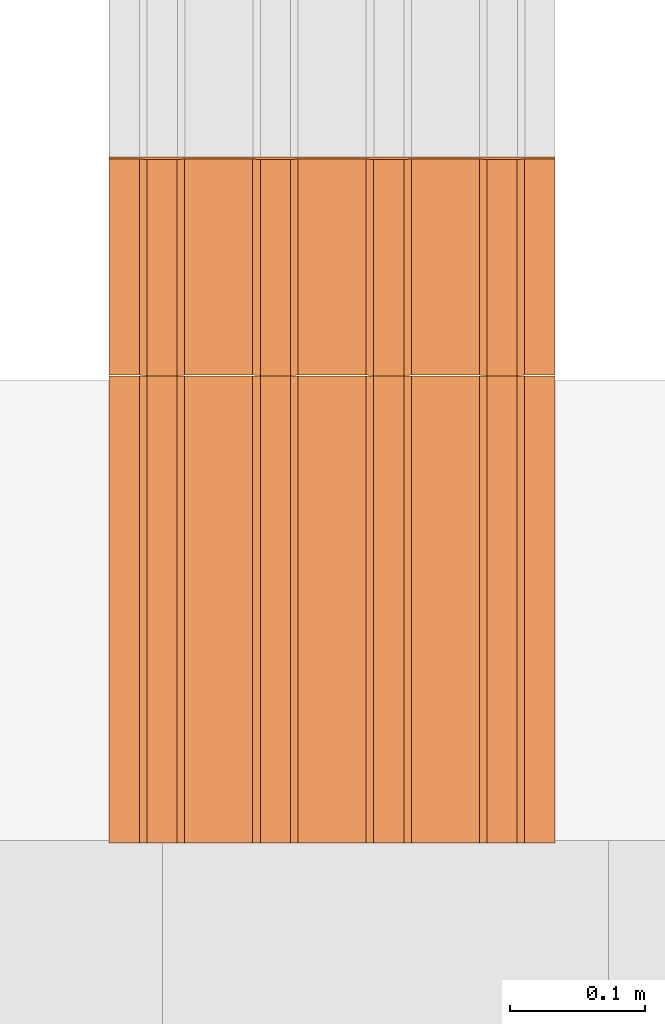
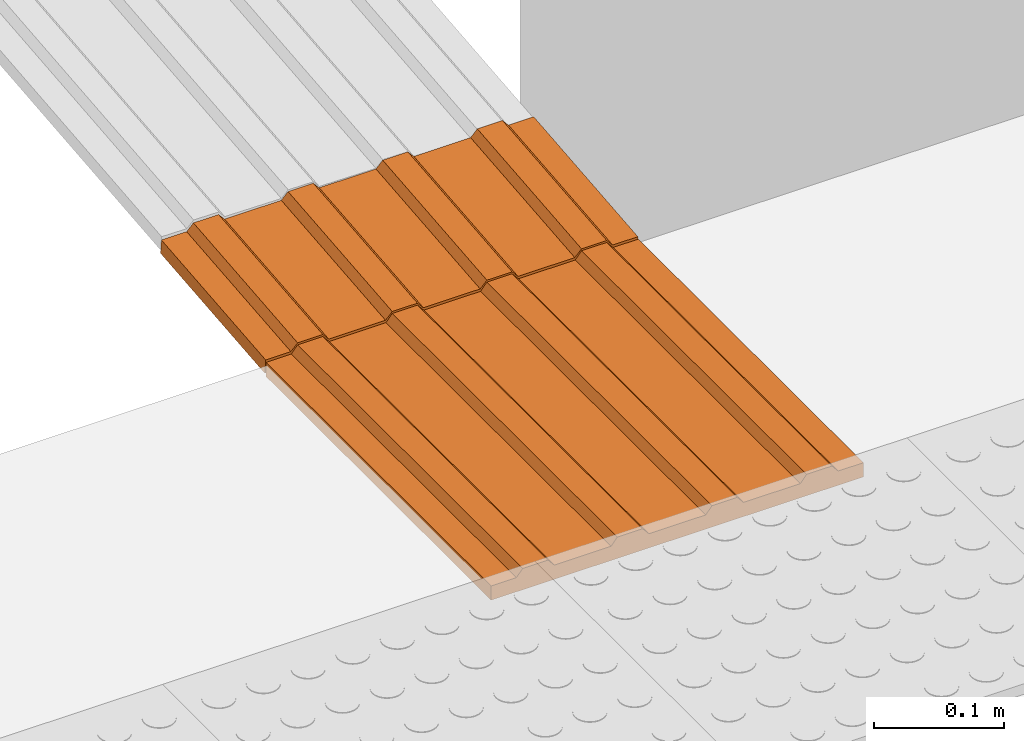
# One storey, part 231 of 237: 2 proxies.
"""IFC2X3 building model written with IfcOpenShell, lengths in millimetres."""

from ifc_helpers import new_model, entity, si_unit, converted_unit, derived_unit, money_unit, direction, frame, origin_with_axes, place, context, subcontext, project, spatial, open_shell, surface_model, type_object, element, save


model = new_model("IFC2X3")

# Units and contexts
model_context = context("Model", 3, precision=0.01, world=origin_with_axes(), true_north=direction((0.0, 1.0)))
body_context = subcontext(model_context, "Body", "Model", "MODEL_VIEW")
ifc_project = project(units=[si_unit("LENGTHUNIT", "METRE", prefix="MILLI"), si_unit("AREAUNIT", "SQUARE_METRE"), si_unit("VOLUMEUNIT", "CUBIC_METRE"), converted_unit("PLANEANGLEUNIT", "DEGREE", entity("IfcPlaneAngleMeasure", 0.0174532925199), si_unit("PLANEANGLEUNIT", "RADIAN"), dimensions=[0, 0, 0, 0, 0, 0, 0]), money_unit("USD"), converted_unit("TIMEUNIT", "Year", entity("IfcTimeMeasure", 31556926.0), si_unit("TIMEUNIT", "SECOND"), dimensions=[0, 0, 1, 0, 0, 0, 0]), si_unit("MASSUNIT", "GRAM", prefix="KILO"), si_unit("THERMODYNAMICTEMPERATUREUNIT", "DEGREE_CELSIUS"), si_unit("LUMINOUSINTENSITYUNIT", "LUMEN"), si_unit("ENERGYUNIT", "JOULE", prefix="MEGA"), derived_unit("THERMALCONDUCTANCEUNIT", [(si_unit("POWERUNIT", "WATT"), 1), (si_unit("LENGTHUNIT", "METRE"), -1), (si_unit("THERMODYNAMICTEMPERATUREUNIT", "KELVIN"), -1)]), derived_unit("SPECIFICHEATCAPACITYUNIT", [(si_unit("ENERGYUNIT", "JOULE"), 1), (si_unit("MASSUNIT", "GRAM", prefix="KILO"), -1), (si_unit("THERMODYNAMICTEMPERATUREUNIT", "KELVIN"), -1)]), derived_unit("MASSDENSITYUNIT", [(si_unit("MASSUNIT", "GRAM", prefix="KILO"), 1), (si_unit("VOLUMEUNIT", "CUBIC_METRE"), -1)])], contexts=[model_context])

# Site, building, storey
site_placement = place(None, origin_with_axes())
site = spatial("IfcSite", under=ifc_project, at=site_placement, Name="Local", CompositionType="ELEMENT")
building_placement = place(site_placement, origin_with_axes())
building = spatial("IfcBuilding", under=site, at=building_placement, Name="Construção", CompositionType="ELEMENT")
storey_placement = place(building_placement, origin_with_axes())
storey = spatial("IfcBuildingStorey", under=building, at=storey_placement, Name="Pavimento Térreo", CompositionType="ELEMENT", Elevation=0.0)

# Proxies
building_element_proxy_type = type_object("IfcBuildingElementProxyType", Name="Piso Direcional 27", PredefinedType="NOTDEFINED")
proxy_1_placement = place(storey_placement, frame((123836.79662, 35120.8357906, -7273.00687125), z_axis=(0.0, 0.0, 1.0), x_axis=(0.0, -1.0, 0.0)))
element("IfcBuildingElementProxy", 1, at=proxy_1_placement, inside=storey, type_object=building_element_proxy_type, Name="Objeto-0055", context=body_context, shape_type="SurfaceModel", body=[
    surface_model("IfcShellBasedSurfaceModel", [(0.0, -47.258225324, 4.02852049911), (345.625361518, -47.258225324, 4.02852049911), (345.625361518, -41.665004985, 10.6951871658), (0.0, -41.665004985, 10.6951871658)], [open_shell([[[0, 1, 2, 3]]])]),
    surface_model("IfcShellBasedSurfaceModel", [(345.625361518, -153.529411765, -9.30481283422), (345.625361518, 176.470588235, -9.30481283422), (345.625361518, 176.470588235, 4.02852049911), (345.625361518, 154.097706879, 4.02852049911), (345.625361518, 148.50448654, 10.6951871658), (345.625361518, 126.131605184, 10.6951871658), (345.625361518, 120.538384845, 4.02852049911), (345.625361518, 70.1994017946, 4.02852049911), (345.625361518, 64.6061814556, 10.6951871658), (345.625361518, 42.2333000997, 10.6951871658), (345.625361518, 36.6400797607, 4.02852049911), (345.625361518, -13.6989032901, 4.02852049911), (345.625361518, -19.2921236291, 10.6951871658), (345.625361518, -41.665004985, 10.6951871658), (345.625361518, -47.258225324, 4.02852049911), (345.625361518, -97.5972083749, 4.02852049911), (345.625361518, -103.190428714, 10.6951871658), (345.625361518, -125.56331007, 10.6951871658), (345.625361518, -131.156530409, 4.02852049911), (345.625361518, -153.529411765, 4.02852049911)], [open_shell([[[0, 1, 2, 3, 4, 5, 6, 7, 8, 9, 10, 11, 12, 13, 14, 15, 16, 17, 18, 19]]])]),
    surface_model("IfcShellBasedSurfaceModel", [(0.0, -19.2921236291, 10.6951871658), (345.625361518, -19.2921236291, 10.6951871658), (345.625361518, -13.6989032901, 4.02852049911), (0.0, -13.6989032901, 4.02852049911)], [open_shell([[[0, 1, 2, 3]]])]),
    surface_model("IfcShellBasedSurfaceModel", [(0.0, -103.190428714, 10.6951871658), (345.625361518, -103.190428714, 10.6951871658), (345.625361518, -97.5972083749, 4.02852049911), (0.0, -97.5972083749, 4.02852049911)], [open_shell([[[0, 1, 2, 3]]])]),
    surface_model("IfcShellBasedSurfaceModel", [(0.0, 64.6061814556, 10.6951871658), (345.625361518, 64.6061814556, 10.6951871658), (345.625361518, 70.1994017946, 4.02852049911), (0.0, 70.1994017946, 4.02852049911)], [open_shell([[[0, 1, 2, 3]]])]),
    surface_model("IfcShellBasedSurfaceModel", [(0.0, 36.6400797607, 4.02852049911), (345.625361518, 36.6400797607, 4.02852049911), (345.625361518, 42.2333000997, 10.6951871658), (0.0, 42.2333000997, 10.6951871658)], [open_shell([[[0, 1, 2, 3]]])]),
    surface_model("IfcShellBasedSurfaceModel", [(0.0, -131.156530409, 4.02852049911), (345.625361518, -131.156530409, 4.02852049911), (345.625361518, -125.56331007, 10.6951871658), (0.0, -125.56331007, 10.6951871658)], [open_shell([[[0, 1, 2, 3]]])]),
    surface_model("IfcShellBasedSurfaceModel", [(0.0, 176.470588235, 4.02852049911), (0.0, 154.097706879, 4.02852049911), (345.625361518, 154.097706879, 4.02852049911), (345.625361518, 176.470588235, 4.02852049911)], [open_shell([[[0, 1, 2, 3]]])]),
    surface_model("IfcShellBasedSurfaceModel", [(0.0, 120.538384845, 4.02852049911), (345.625361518, 120.538384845, 4.02852049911), (345.625361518, 126.131605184, 10.6951871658), (0.0, 126.131605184, 10.6951871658)], [open_shell([[[0, 1, 2, 3]]])]),
    surface_model("IfcShellBasedSurfaceModel", [(0.0, 148.50448654, 10.6951871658), (345.625361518, 148.50448654, 10.6951871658), (345.625361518, 154.097706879, 4.02852049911), (0.0, 154.097706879, 4.02852049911)], [open_shell([[[0, 1, 2, 3]]])]),
    surface_model("IfcShellBasedSurfaceModel", [(0.0, 36.6400797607, 4.02852049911), (0.0, -13.6989032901, 4.02852049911), (345.625361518, -13.6989032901, 4.02852049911), (345.625361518, 36.6400797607, 4.02852049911)], [open_shell([[[0, 1, 2, 3]]])]),
    surface_model("IfcShellBasedSurfaceModel", [(0.0, 120.538384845, 4.02852049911), (0.0, 70.1994017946, 4.02852049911), (345.625361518, 70.1994017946, 4.02852049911), (345.625361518, 120.538384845, 4.02852049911)], [open_shell([[[0, 1, 2, 3]]])]),
    surface_model("IfcShellBasedSurfaceModel", [(0.0, 148.50448654, 10.6951871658), (0.0, 126.131605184, 10.6951871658), (345.625361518, 126.131605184, 10.6951871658), (345.625361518, 148.50448654, 10.6951871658)], [open_shell([[[0, 1, 2, 3]]])]),
    surface_model("IfcShellBasedSurfaceModel", [(0.0, 120.538384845, 4.02852049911), (0.0, 126.131605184, 10.6951871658), (0.0, 148.50448654, 10.6951871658), (0.0, 154.097706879, 4.02852049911), (0.0, 176.470588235, 4.02852049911), (0.0, 176.470588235, -9.30481283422), (0.0, -153.529411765, -9.30481283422), (0.0, -153.529411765, 4.02852049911), (0.0, -131.156530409, 4.02852049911), (0.0, -125.56331007, 10.6951871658), (0.0, -103.190428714, 10.6951871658), (0.0, -97.5972083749, 4.02852049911), (0.0, -47.258225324, 4.02852049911), (0.0, -41.665004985, 10.6951871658), (0.0, -19.2921236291, 10.6951871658), (0.0, -13.6989032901, 4.02852049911), (0.0, 36.6400797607, 4.02852049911), (0.0, 42.2333000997, 10.6951871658), (0.0, 64.6061814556, 10.6951871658), (0.0, 70.1994017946, 4.02852049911)], [open_shell([[[0, 1, 2, 3, 4, 5, 6, 7, 8, 9, 10, 11, 12, 13, 14, 15, 16, 17, 18, 19]]])]),
    surface_model("IfcShellBasedSurfaceModel", [(345.625361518, -41.665004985, 10.6951871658), (345.625361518, -19.2921236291, 10.6951871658), (0.0, -19.2921236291, 10.6951871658), (0.0, -41.665004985, 10.6951871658)], [open_shell([[[0, 1, 2, 3]]])]),
    surface_model("IfcShellBasedSurfaceModel", [(0.0, -47.258225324, 4.02852049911), (0.0, -97.5972083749, 4.02852049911), (345.625361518, -97.5972083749, 4.02852049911), (345.625361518, -47.258225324, 4.02852049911)], [open_shell([[[0, 1, 2, 3]]])]),
    surface_model("IfcShellBasedSurfaceModel", [(345.625361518, 42.2333000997, 10.6951871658), (345.625361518, 64.6061814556, 10.6951871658), (0.0, 64.6061814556, 10.6951871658), (0.0, 42.2333000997, 10.6951871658)], [open_shell([[[0, 1, 2, 3]]])]),
    surface_model("IfcShellBasedSurfaceModel", [(345.625361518, -125.56331007, 10.6951871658), (345.625361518, -103.190428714, 10.6951871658), (0.0, -103.190428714, 10.6951871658), (0.0, -125.56331007, 10.6951871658)], [open_shell([[[0, 1, 2, 3]]])]),
    surface_model("IfcShellBasedSurfaceModel", [(345.625361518, 176.470588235, -9.30481283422), (0.0, 176.470588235, -9.30481283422), (0.0, 176.470588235, 4.02852049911), (345.625361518, 176.470588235, 4.02852049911)], [open_shell([[[0, 1, 2, 3]]])]),
    surface_model("IfcShellBasedSurfaceModel", [(345.625361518, -153.529411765, -9.30481283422), (0.0, -153.529411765, -9.30481283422), (0.0, 176.470588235, -9.30481283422), (345.625361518, 176.470588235, -9.30481283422)], [open_shell([[[0, 1, 2, 3]]])]),
    surface_model("IfcShellBasedSurfaceModel", [(345.625361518, -153.529411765, 4.02852049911), (345.625361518, -131.156530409, 4.02852049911), (0.0, -131.156530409, 4.02852049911), (0.0, -153.529411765, 4.02852049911)], [open_shell([[[0, 1, 2, 3]]])]),
    surface_model("IfcShellBasedSurfaceModel", [(0.0, -153.529411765, -9.30481283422), (345.625361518, -153.529411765, -9.30481283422), (345.625361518, -153.529411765, 4.02852049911), (0.0, -153.529411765, 4.02852049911)], [open_shell([[[0, 1, 2, 3]]])]),
])
proxy_2_placement = place(storey_placement, frame((123836.79662, 35281.915813, -7255.73708303), z_axis=(0.0, 0.0, 1.0), x_axis=(0.0, -1.0, 0.0)))
element("IfcBuildingElementProxy", 2, at=proxy_2_placement, inside=storey, type_object=building_element_proxy_type, Name="Objeto-0055", context=body_context, shape_type="SurfaceModel", body=[
    surface_model("IfcShellBasedSurfaceModel", [(0.38611657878, -47.258225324, 4.00997398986), (160.45023053, -47.258225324, -11.4024471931), (161.089202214, -41.665004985, -4.76647253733), (1.02508826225, -41.665004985, 10.6459486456)], [open_shell([[[0, 1, 2, 3]]])]),
    surface_model("IfcShellBasedSurfaceModel", [(159.172287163, -153.529411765, -24.6743965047), (159.172287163, 176.470588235, -24.6743965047), (160.45023053, 176.470588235, -11.4024471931), (160.45023053, 154.097706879, -11.4024471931), (161.089202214, 148.50448654, -4.76647253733), (161.089202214, 126.131605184, -4.76647253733), (160.45023053, 120.538384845, -11.4024471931), (160.45023053, 70.1994017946, -11.4024471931), (161.089202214, 64.6061814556, -4.76647253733), (161.089202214, 42.2333000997, -4.76647253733), (160.45023053, 36.6400797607, -11.4024471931), (160.45023053, -13.6989032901, -11.4024471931), (161.089202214, -19.2921236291, -4.76647253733), (161.089202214, -41.665004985, -4.76647253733), (160.45023053, -47.258225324, -11.4024471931), (160.45023053, -97.5972083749, -11.4024471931), (161.089202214, -103.190428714, -4.76647253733), (161.089202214, -125.56331007, -4.76647253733), (160.45023053, -131.156530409, -11.4024471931), (160.45023053, -153.529411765, -11.4024471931)], [open_shell([[[0, 1, 2, 3, 4, 5, 6, 7, 8, 9, 10, 11, 12, 13, 14, 15, 16, 17, 18, 19]]])]),
    surface_model("IfcShellBasedSurfaceModel", [(1.02508826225, -19.2921236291, 10.6459486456), (161.089202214, -19.2921236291, -4.76647253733), (160.45023053, -13.6989032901, -11.4024471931), (0.38611657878, -13.6989032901, 4.00997398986)], [open_shell([[[0, 1, 2, 3]]])]),
    surface_model("IfcShellBasedSurfaceModel", [(1.02508826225, -103.190428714, 10.6459486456), (161.089202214, -103.190428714, -4.76647253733), (160.45023053, -97.5972083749, -11.4024471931), (0.38611657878, -97.5972083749, 4.00997398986)], [open_shell([[[0, 1, 2, 3]]])]),
    surface_model("IfcShellBasedSurfaceModel", [(1.02508826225, 64.6061814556, 10.6459486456), (161.089202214, 64.6061814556, -4.76647253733), (160.45023053, 70.1994017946, -11.4024471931), (0.38611657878, 70.1994017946, 4.00997398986)], [open_shell([[[0, 1, 2, 3]]])]),
    surface_model("IfcShellBasedSurfaceModel", [(0.38611657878, 36.6400797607, 4.00997398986), (160.45023053, 36.6400797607, -11.4024471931), (161.089202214, 42.2333000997, -4.76647253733), (1.02508826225, 42.2333000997, 10.6459486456)], [open_shell([[[0, 1, 2, 3]]])]),
    surface_model("IfcShellBasedSurfaceModel", [(0.38611657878, -131.156530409, 4.00997398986), (160.45023053, -131.156530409, -11.4024471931), (161.089202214, -125.56331007, -4.76647253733), (1.02508826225, -125.56331007, 10.6459486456)], [open_shell([[[0, 1, 2, 3]]])]),
    surface_model("IfcShellBasedSurfaceModel", [(0.38611657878, 176.470588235, 4.00997398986), (0.38611657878, 154.097706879, 4.00997398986), (160.45023053, 154.097706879, -11.4024471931), (160.45023053, 176.470588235, -11.4024471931)], [open_shell([[[0, 1, 2, 3]]])]),
    surface_model("IfcShellBasedSurfaceModel", [(0.38611657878, 120.538384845, 4.00997398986), (160.45023053, 120.538384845, -11.4024471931), (161.089202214, 126.131605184, -4.76647253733), (1.02508826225, 126.131605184, 10.6459486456)], [open_shell([[[0, 1, 2, 3]]])]),
    surface_model("IfcShellBasedSurfaceModel", [(1.02508826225, 148.50448654, 10.6459486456), (161.089202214, 148.50448654, -4.76647253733), (160.45023053, 154.097706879, -11.4024471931), (0.38611657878, 154.097706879, 4.00997398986)], [open_shell([[[0, 1, 2, 3]]])]),
    surface_model("IfcShellBasedSurfaceModel", [(0.38611657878, 36.6400797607, 4.00997398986), (0.38611657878, -13.6989032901, 4.00997398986), (160.45023053, -13.6989032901, -11.4024471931), (160.45023053, 36.6400797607, -11.4024471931)], [open_shell([[[0, 1, 2, 3]]])]),
    surface_model("IfcShellBasedSurfaceModel", [(0.38611657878, 120.538384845, 4.00997398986), (0.38611657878, 70.1994017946, 4.00997398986), (160.45023053, 70.1994017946, -11.4024471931), (160.45023053, 120.538384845, -11.4024471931)], [open_shell([[[0, 1, 2, 3]]])]),
    surface_model("IfcShellBasedSurfaceModel", [(1.02508826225, 148.50448654, 10.6459486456), (1.02508826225, 126.131605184, 10.6459486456), (161.089202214, 126.131605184, -4.76647253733), (161.089202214, 148.50448654, -4.76647253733)], [open_shell([[[0, 1, 2, 3]]])]),
    surface_model("IfcShellBasedSurfaceModel", [(0.38611657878, 120.538384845, 4.00997398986), (1.02508826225, 126.131605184, 10.6459486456), (1.02508826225, 148.50448654, 10.6459486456), (0.38611657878, 154.097706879, 4.00997398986), (0.38611657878, 176.470588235, 4.00997398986), (-0.891826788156, 176.470588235, -9.26197532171), (-0.891826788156, -153.529411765, -9.26197532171), (0.38611657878, -153.529411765, 4.00997398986), (0.38611657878, -131.156530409, 4.00997398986), (1.02508826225, -125.56331007, 10.6459486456), (1.02508826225, -103.190428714, 10.6459486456), (0.38611657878, -97.5972083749, 4.00997398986), (0.38611657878, -47.258225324, 4.00997398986), (1.02508826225, -41.665004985, 10.6459486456), (1.02508826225, -19.2921236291, 10.6459486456), (0.38611657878, -13.6989032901, 4.00997398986), (0.38611657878, 36.6400797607, 4.00997398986), (1.02508826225, 42.2333000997, 10.6459486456), (1.02508826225, 64.6061814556, 10.6459486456), (0.38611657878, 70.1994017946, 4.00997398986)], [open_shell([[[0, 1, 2, 3, 4, 5, 6, 7, 8, 9, 10, 11, 12, 13, 14, 15, 16, 17, 18, 19]]])]),
    surface_model("IfcShellBasedSurfaceModel", [(161.089202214, -41.665004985, -4.76647253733), (161.089202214, -19.2921236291, -4.76647253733), (1.02508826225, -19.2921236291, 10.6459486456), (1.02508826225, -41.665004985, 10.6459486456)], [open_shell([[[0, 1, 2, 3]]])]),
    surface_model("IfcShellBasedSurfaceModel", [(0.38611657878, -47.258225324, 4.00997398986), (0.38611657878, -97.5972083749, 4.00997398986), (160.45023053, -97.5972083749, -11.4024471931), (160.45023053, -47.258225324, -11.4024471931)], [open_shell([[[0, 1, 2, 3]]])]),
    surface_model("IfcShellBasedSurfaceModel", [(161.089202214, 42.2333000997, -4.76647253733), (161.089202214, 64.6061814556, -4.76647253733), (1.02508826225, 64.6061814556, 10.6459486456), (1.02508826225, 42.2333000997, 10.6459486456)], [open_shell([[[0, 1, 2, 3]]])]),
    surface_model("IfcShellBasedSurfaceModel", [(161.089202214, -125.56331007, -4.76647253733), (161.089202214, -103.190428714, -4.76647253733), (1.02508826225, -103.190428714, 10.6459486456), (1.02508826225, -125.56331007, 10.6459486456)], [open_shell([[[0, 1, 2, 3]]])]),
    surface_model("IfcShellBasedSurfaceModel", [(159.172287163, 176.470588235, -24.6743965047), (-0.891826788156, 176.470588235, -9.26197532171), (0.38611657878, 176.470588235, 4.00997398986), (160.45023053, 176.470588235, -11.4024471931)], [open_shell([[[0, 1, 2, 3]]])]),
    surface_model("IfcShellBasedSurfaceModel", [(159.172287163, -153.529411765, -24.6743965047), (-0.891826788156, -153.529411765, -9.26197532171), (-0.891826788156, 176.470588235, -9.26197532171), (159.172287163, 176.470588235, -24.6743965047)], [open_shell([[[0, 1, 2, 3]]])]),
    surface_model("IfcShellBasedSurfaceModel", [(160.45023053, -153.529411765, -11.4024471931), (160.45023053, -131.156530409, -11.4024471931), (0.38611657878, -131.156530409, 4.00997398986), (0.38611657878, -153.529411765, 4.00997398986)], [open_shell([[[0, 1, 2, 3]]])]),
    surface_model("IfcShellBasedSurfaceModel", [(-0.891826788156, -153.529411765, -9.26197532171), (159.172287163, -153.529411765, -24.6743965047), (160.45023053, -153.529411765, -11.4024471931), (0.38611657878, -153.529411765, 4.00997398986)], [open_shell([[[0, 1, 2, 3]]])]),
])

save(model, "model.ifc")
